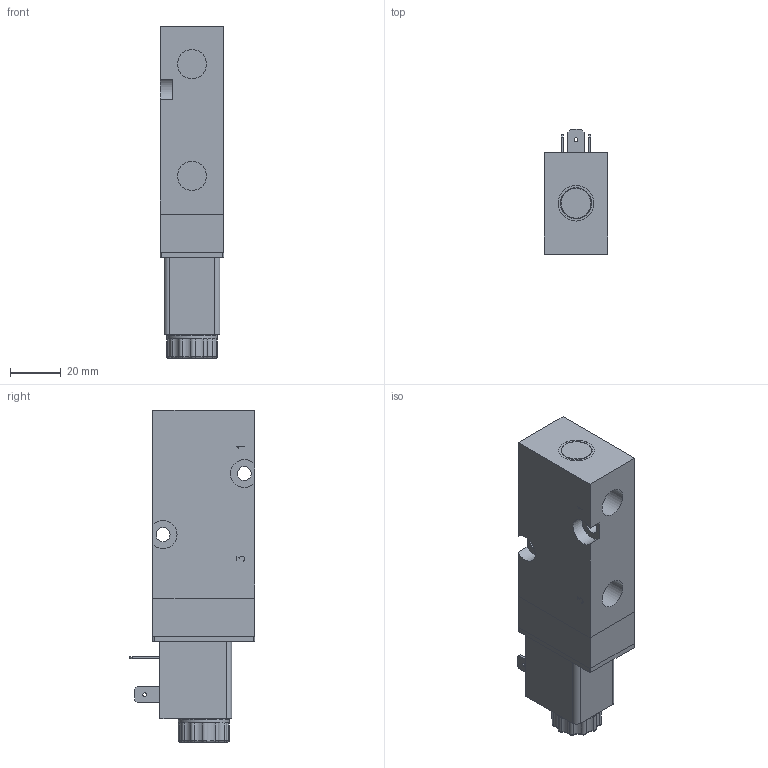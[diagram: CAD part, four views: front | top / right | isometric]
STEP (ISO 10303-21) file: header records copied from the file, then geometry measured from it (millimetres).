
FILE_DESCRIPTION (( 'STEP AP214' ), '1' );
FILE_NAME ('ICKN-55-310-HN-F42_Airtec.step', '2019-01-08T09:17:31', ( '' ), ( '' ), 'SwSTEP 2.0', 'SolidWorks 2010', '' );
FILE_SCHEMA (( 'AUTOMOTIVE_DESIGN' ));
Length unit declared in the file: millimetre
Products named in the file (3): Volumenkörper3; Volumenkörper1; ICKN-55-310-HN-F42_Airtec
Assembly tree (2 placements, depth 2):
  ICKN-55-310-HN-F42_Airtec
    Volumenkörper1
    Volumenkörper3
Bounding box: 25 x 49.2 x 130.6 mm (x, y, z)
Volume: 107019.9 mm3; surface area: 24264.7 mm2
Topology: 2 solids, 2 shells, 426 faces, 1092 edges, 702 vertices
Faces by surface type: plane 212, cylinder 85, cone 66, torus 49, bspline 14
Full cylindrical faces by diameter (mm): 1.5 x3, 2.459 x1, 5.1 x4, 5.5 x3, 7.5 x4, 8 x1, 8.15 x1, 9.04 x2, 9.1 x1, 11.445 x2, 12 x1, 14 x1, 15 x1, 16.6 x1, 20 x3
Entity records: 17014 total; most frequent: CARTESIAN_POINT 3900, ORIENTED_EDGE 2058, DIRECTION 2052, EDGE_CURVE 1029, AXIS2_PLACEMENT_3D 764, VERTEX_POINT 687, VECTOR 524, LINE 524
